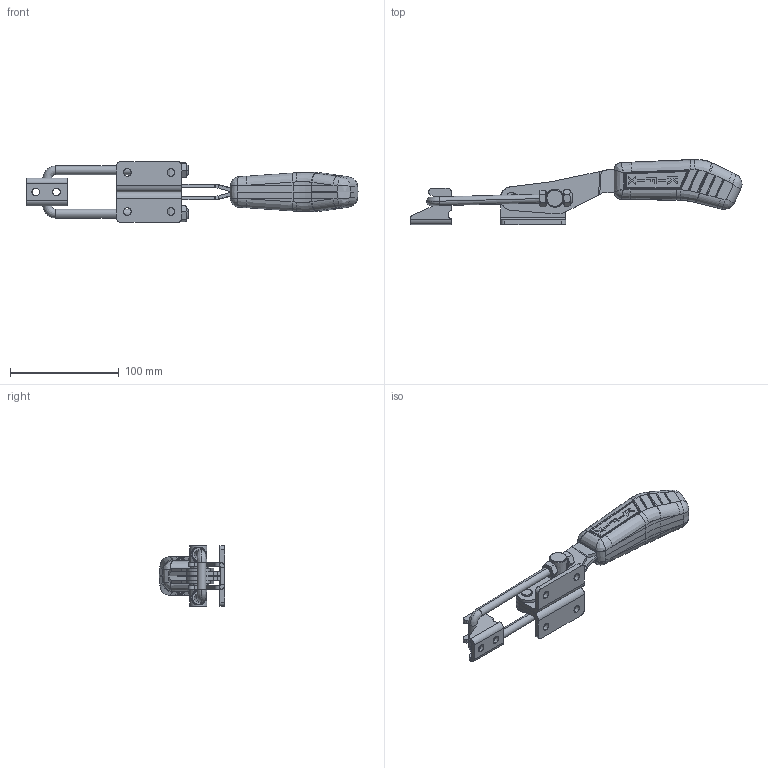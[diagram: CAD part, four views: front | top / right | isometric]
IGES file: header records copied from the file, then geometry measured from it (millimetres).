
Start section: SolidWorks IGES file using analytic representation for surfaces
Global section: file name: C:\Projetos\Grampos\KF-943\KF-943 D\KF-943 D.IGS; native system: SolidWorks 2013; preprocessor: SolidWorks 2013; author: Ricardo; date: 140821.104105; units: millimetre
Bounding box: 305.72 x 60.02 x 56.5 mm (x, y, z)
Surface area: 72286.4 mm2 (no closed solid volume)
Topology: 0 solids, 0 shells, 671 faces, 7440 edges, 7419 vertices
Faces by surface type: bspline 393, revolution 278
